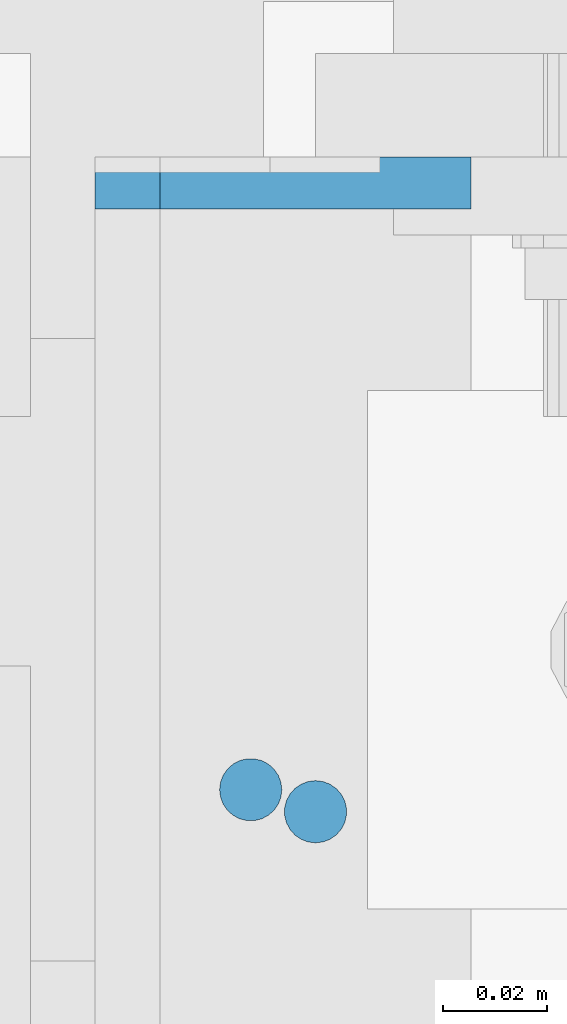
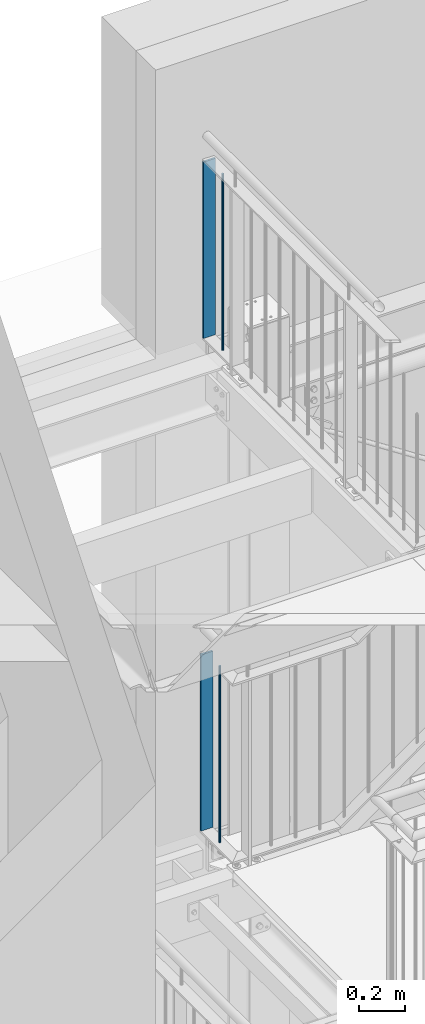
# One storey, part 64 of 821: 4 columns.
"""IFC2X3 building model written with IfcOpenShell, lengths in millimetres."""

from ifc_helpers import new_model, entity, si_unit, converted_unit, frame, origin, origin_with_axes, origin_2d, place, context, project, spatial, rectangle, circle, extrude, clip, halfspace, material, element, save


model = new_model("IFC2X3")

# Units and contexts
model_context = context("Model", 3, precision=1e-09, world=origin_with_axes())
ifc_project = project(units=[si_unit("LENGTHUNIT", "METRE", prefix="MILLI"), si_unit("AREAUNIT", "SQUARE_METRE"), si_unit("VOLUMEUNIT", "CUBIC_METRE"), converted_unit("PLANEANGLEUNIT", "DEGREE", entity("IfcPlaneAngleMeasure", 0.01745329), si_unit("PLANEANGLEUNIT", "RADIAN"), dimensions=[0, 0, 0, 0, 0, 0, 0])], contexts=[model_context])

# Site, building, storey
site_placement = place(None, origin_with_axes())
site = spatial("IfcSite", under=ifc_project, at=site_placement, Name="Cnopf'sche Kinderklinik", CompositionType="ELEMENT")
building_placement = place(site_placement, origin_with_axes())
building = spatial("IfcBuilding", under=site, at=building_placement, Name="Struktur 1", CompositionType="ELEMENT")
storey_placement = place(building_placement, origin_with_axes())
storey = spatial("IfcBuildingStorey", under=building, at=storey_placement, Name="Default Storey", CompositionType="ELEMENT", Elevation=0.0)

# Columns
ifc_material = material(Name="S235JR")
column_1_placement = place(None, frame((4656.713402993, 7606.736971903, 17904.0), z_axis=(0.0, 0.0, -1.0), x_axis=(0.0, 1.0, 0.0)))
element("IfcColumn", 1, at=column_1_placement, inside=storey, material=ifc_material, Name="Railing_Kneerail_Landing#8", ObjectType="Railing_Kneerail_Landing#8", context=model_context, shape_type="SweptSolid", body=[
    extrude(rectangle(XDim=10.0, YDim=60.0, at=origin_2d()), origin(), (0.0, 0.0, -1.0), 938.8),
])
column_2_placement = place(None, frame((4656.713402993, 7485.486971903, 18856.285281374), z_axis=(0.0, 0.0, 1.0), x_axis=(0.0, 1.0, 0.0)))
element("IfcColumn", 2, at=column_2_placement, inside=storey, material=ifc_material, Name="Railing_Picket_Landing#27", ObjectType="Railing_Picket_Landing#27", context=model_context, shape_type="Clipping", body=[
    clip(clip(extrude(circle(Radius=6.0, at=origin_2d()), origin(), (0.0, 0.0, -1.0), 965.770562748), halfspace(frame((-7485.486971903, 4656.713402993, -13.486281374), z_axis=(0.0, 0.0, -1.0), x_axis=(0.0, 1.0, 0.0)), True)), halfspace(frame((-7485.486971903, 4656.713402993, -952.284281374), z_axis=(0.0, 0.0, 1.0), x_axis=(0.0, -1.0, 0.0)), True)),
])
column_3_placement = place(None, frame((4644.213402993, 7606.736971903, 15284.0), z_axis=(0.0, 0.0, -1.0), x_axis=(0.0, -1.0, 0.0)))
element("IfcColumn", 3, at=column_3_placement, inside=storey, material=ifc_material, Name="Railing_Kneerail_Landing#0", ObjectType="Railing_Kneerail_Landing#0", context=model_context, shape_type="SweptSolid", body=[
    extrude(rectangle(XDim=10.0, YDim=60.0, at=origin_2d()), origin(), (0.0, 0.0, -1.0), 938.8),
])
column_4_placement = place(None, frame((4644.213402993, 7489.736971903, 16236.285281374), z_axis=(0.0, 0.0, 1.0), x_axis=(1.0, 0.0, 0.0)))
element("IfcColumn", 4, at=column_4_placement, inside=storey, material=ifc_material, Name="Railing_Picket_Landing#0", ObjectType="Railing_Picket_Landing#0", context=model_context, shape_type="Clipping", body=[
    clip(clip(extrude(circle(Radius=6.0, at=origin_2d()), origin(), (0.0, 0.0, -1.0), 965.770562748), halfspace(frame((-4644.213402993, -7489.736971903, -13.486281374), z_axis=(0.0, 0.0, -1.0), x_axis=(-1.0, 0.0, 0.0)), True)), halfspace(frame((-4644.213402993, -7489.736971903, -952.284281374), z_axis=(0.0, 0.0, 1.0), x_axis=(1.0, 0.0, 0.0)), True)),
])

save(model, "model.ifc")
